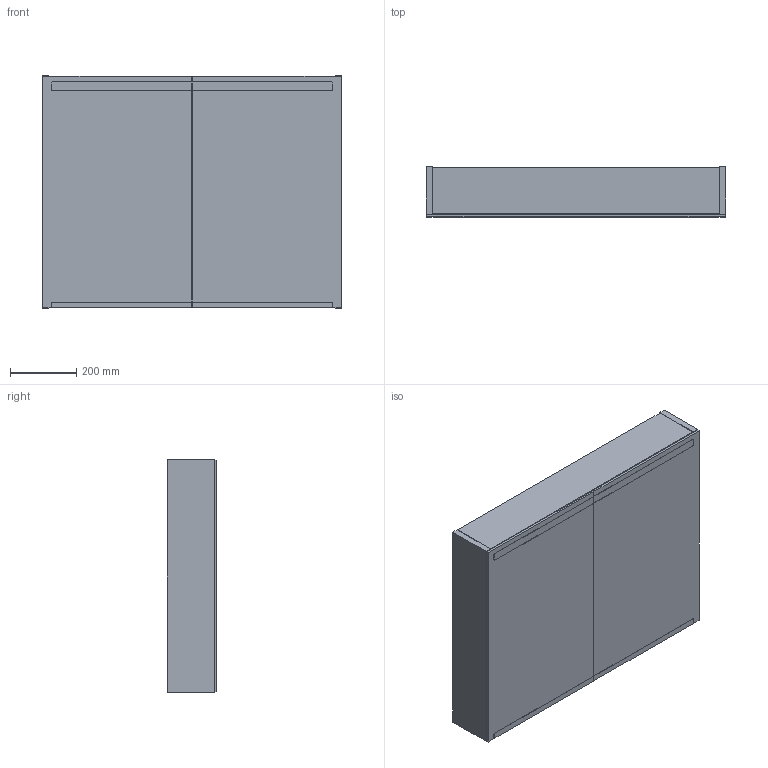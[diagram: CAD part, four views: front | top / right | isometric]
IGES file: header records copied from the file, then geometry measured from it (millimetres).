
Global section: file name: 500583; native system: Autodesk Inventor 2018; preprocessor: unknown; author: JANAN; date: 20200113.154741; units: millimetre
Bounding box: 900 x 150 x 700 mm (x, y, z)
Volume: 17780126 mm3; surface area: 4010538.5 mm2
Topology: 3 solids, 5 shells, 84 faces, 222 edges, 148 vertices
Faces by surface type: bspline 84
